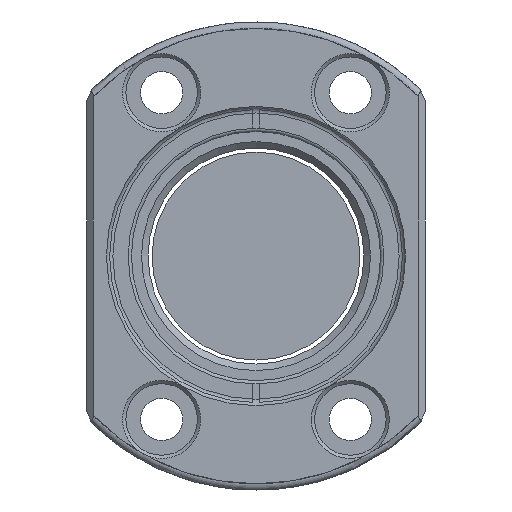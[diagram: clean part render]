
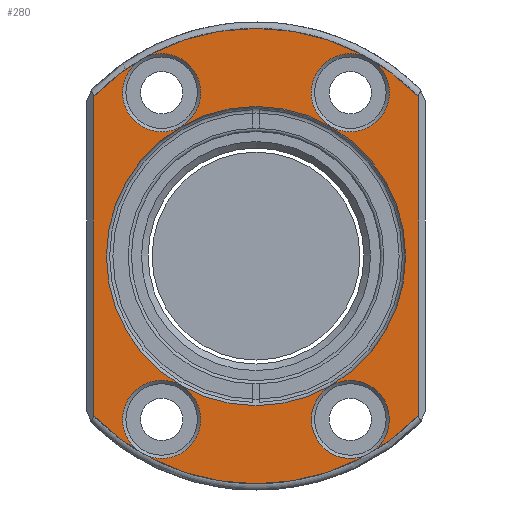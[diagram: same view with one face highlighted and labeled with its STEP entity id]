
A CAD part, front view. The second image highlights one B-rep face of the part: STEP entity #280.
In plain terms, the highlighted planar face has unit normal (0, 1, 0).
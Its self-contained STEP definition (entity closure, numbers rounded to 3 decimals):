
#57=LINE('',#1734,#97);
#58=LINE('',#1738,#98);
#97=VECTOR('',#1423,1.);
#98=VECTOR('',#1426,1.);
#203=PLANE('',#1190);
#280=ADVANCED_FACE('',(#380,#381,#382,#383,#384,#385),#203,.F.);
#380=FACE_BOUND('',#490,.T.);
#381=FACE_BOUND('',#491,.T.);
#382=FACE_BOUND('',#492,.T.);
#383=FACE_BOUND('',#493,.T.);
#384=FACE_BOUND('',#494,.T.);
#385=FACE_BOUND('',#495,.T.);
#490=EDGE_LOOP('',(#663));
#491=EDGE_LOOP('',(#664));
#492=EDGE_LOOP('',(#665));
#493=EDGE_LOOP('',(#666));
#494=EDGE_LOOP('',(#667,#668,#669,#670));
#495=EDGE_LOOP('',(#671));
#663=ORIENTED_EDGE('',*,*,#975,.T.);
#664=ORIENTED_EDGE('',*,*,#976,.T.);
#665=ORIENTED_EDGE('',*,*,#977,.T.);
#666=ORIENTED_EDGE('',*,*,#978,.T.);
#667=ORIENTED_EDGE('',*,*,#979,.T.);
#668=ORIENTED_EDGE('',*,*,#980,.T.);
#669=ORIENTED_EDGE('',*,*,#981,.T.);
#670=ORIENTED_EDGE('',*,*,#982,.T.);
#671=ORIENTED_EDGE('',*,*,#983,.T.);
#865=VERTEX_POINT('',#1724);
#866=VERTEX_POINT('',#1726);
#867=VERTEX_POINT('',#1728);
#868=VERTEX_POINT('',#1730);
#869=VERTEX_POINT('',#1732);
#870=VERTEX_POINT('',#1733);
#871=VERTEX_POINT('',#1735);
#872=VERTEX_POINT('',#1737);
#873=VERTEX_POINT('',#1740);
#975=EDGE_CURVE('',#865,#865,#1083,.T.);
#976=EDGE_CURVE('',#866,#866,#1084,.T.);
#977=EDGE_CURVE('',#867,#867,#1085,.T.);
#978=EDGE_CURVE('',#868,#868,#1086,.T.);
#979=EDGE_CURVE('',#869,#870,#1087,.T.);
#980=EDGE_CURVE('',#870,#871,#57,.T.);
#981=EDGE_CURVE('',#871,#872,#1088,.T.);
#982=EDGE_CURVE('',#872,#869,#58,.T.);
#983=EDGE_CURVE('',#873,#873,#1089,.T.);
#1083=CIRCLE('',#1183,3.75);
#1084=CIRCLE('',#1184,3.75);
#1085=CIRCLE('',#1185,3.75);
#1086=CIRCLE('',#1186,3.75);
#1087=CIRCLE('',#1187,35.);
#1088=CIRCLE('',#1188,35.);
#1089=CIRCLE('',#1189,23.);
#1183=AXIS2_PLACEMENT_3D('',#1723,#1413,#1414);
#1184=AXIS2_PLACEMENT_3D('',#1725,#1415,#1416);
#1185=AXIS2_PLACEMENT_3D('',#1727,#1417,#1418);
#1186=AXIS2_PLACEMENT_3D('',#1729,#1419,#1420);
#1187=AXIS2_PLACEMENT_3D('',#1731,#1421,#1422);
#1188=AXIS2_PLACEMENT_3D('',#1736,#1424,#1425);
#1189=AXIS2_PLACEMENT_3D('',#1739,#1427,#1428);
#1190=AXIS2_PLACEMENT_3D('',#1741,#1429,#1430);
#1413=DIRECTION('',(0.,-1.,0.));
#1414=DIRECTION('',(0.,0.,-1.));
#1415=DIRECTION('',(0.,-1.,0.));
#1416=DIRECTION('',(0.,0.,-1.));
#1417=DIRECTION('',(0.,-1.,0.));
#1418=DIRECTION('',(0.,0.,-1.));
#1419=DIRECTION('',(0.,-1.,0.));
#1420=DIRECTION('',(0.,0.,-1.));
#1421=DIRECTION('',(0.,1.,0.));
#1422=DIRECTION('',(0.,0.,-1.));
#1423=DIRECTION('',(0.,0.,-1.));
#1424=DIRECTION('',(0.,1.,0.));
#1425=DIRECTION('',(0.,0.,-1.));
#1426=DIRECTION('',(0.,0.,1.));
#1427=DIRECTION('',(0.,-1.,0.));
#1428=DIRECTION('',(0.,0.,-1.));
#1429=DIRECTION('',(0.,-1.,0.));
#1430=DIRECTION('',(0.,0.,-1.));
#1723=CARTESIAN_POINT('',(14.5,12.,25.115));
#1724=CARTESIAN_POINT('',(14.5,12.,21.365));
#1725=CARTESIAN_POINT('',(-14.5,12.,25.115));
#1726=CARTESIAN_POINT('',(-14.5,12.,21.365));
#1727=CARTESIAN_POINT('',(14.5,12.,-25.115));
#1728=CARTESIAN_POINT('',(14.5,12.,-28.865));
#1729=CARTESIAN_POINT('',(-14.5,12.,-25.115));
#1730=CARTESIAN_POINT('',(-14.5,12.,-28.865));
#1731=CARTESIAN_POINT('',(0.,12.,0.));
#1732=CARTESIAN_POINT('',(-25.,12.,24.495));
#1733=CARTESIAN_POINT('',(25.,12.,24.495));
#1734=CARTESIAN_POINT('',(25.,12.,0.));
#1735=CARTESIAN_POINT('',(25.,12.,-24.495));
#1736=CARTESIAN_POINT('',(0.,12.,0.));
#1737=CARTESIAN_POINT('',(-25.,12.,-24.495));
#1738=CARTESIAN_POINT('',(-25.,12.,0.));
#1739=CARTESIAN_POINT('',(0.,12.,0.));
#1740=CARTESIAN_POINT('',(0.,12.,-23.));
#1741=CARTESIAN_POINT('',(0.,12.,0.));
